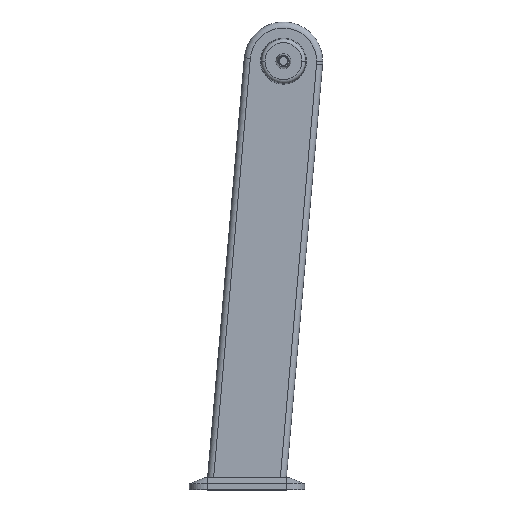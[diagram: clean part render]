
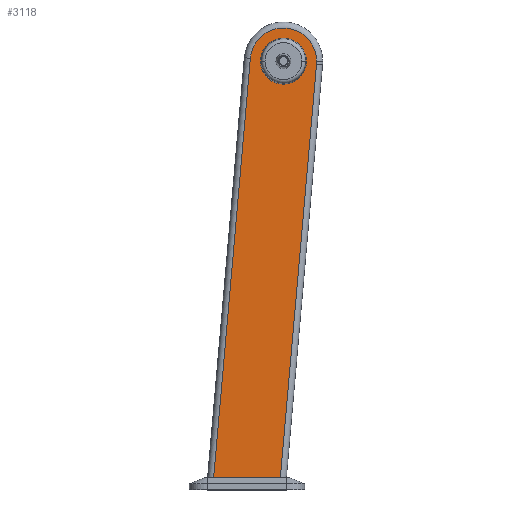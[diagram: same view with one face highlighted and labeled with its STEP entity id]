
A CAD part, top view. The second image highlights one B-rep face of the part: STEP entity #3118.
In plain terms, the highlighted planar face has unit normal (0, 0, 1).
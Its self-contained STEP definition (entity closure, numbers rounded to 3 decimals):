
#18 = DIRECTION ( 'NONE',  ( -0.087, -0.996, 0. ) ) ;
#55 = AXIS2_PLACEMENT_3D ( 'NONE', #3131, #1603, #84 ) ;
#84 = DIRECTION ( 'NONE',  ( 1., 0., 0. ) ) ;
#102 = CARTESIAN_POINT ( 'NONE',  ( 0., 0., 31.25 ) ) ;
#120 = CIRCLE ( 'NONE', #55, 38. ) ;
#128 = ORIENTED_EDGE ( 'NONE', *, *, #154, .F. ) ;
#154 = EDGE_CURVE ( 'NONE', #166, #492, #120, .T. ) ;
#166 = VERTEX_POINT ( 'NONE', #2633 ) ;
#173 = DIRECTION ( 'NONE',  ( 1., 0., 0. ) ) ;
#221 = CARTESIAN_POINT ( 'NONE',  ( 54.791, -4.794, 31.25 ) ) ;
#269 = CARTESIAN_POINT ( 'NONE',  ( -5.157, -690., 31.25 ) ) ;
#316 = CARTESIAN_POINT ( 'NONE',  ( 55., 0., 31.25 ) ) ;
#355 = DIRECTION ( 'NONE',  ( 1., 0., 0. ) ) ;
#413 = VECTOR ( 'NONE', #173, 1000. ) ;
#453 = AXIS2_PLACEMENT_3D ( 'NONE', #2770, #750, #2522 ) ;
#492 = VERTEX_POINT ( 'NONE', #2246 ) ;
#518 = VERTEX_POINT ( 'NONE', #3277 ) ;
#575 = AXIS2_PLACEMENT_3D ( 'NONE', #2905, #1393, #3163 ) ;
#638 = LINE ( 'NONE', #221, #2421 ) ;
#694 = EDGE_CURVE ( 'NONE', #2754, #1002, #638, .T. ) ;
#743 = CIRCLE ( 'NONE', #861, 55. ) ;
#750 = DIRECTION ( 'NONE',  ( 0., 0., 1. ) ) ;
#777 = FACE_OUTER_BOUND ( 'NONE', #1436, .T. ) ;
#801 = EDGE_CURVE ( 'NONE', #1948, #518, #2856, .T. ) ;
#861 = AXIS2_PLACEMENT_3D ( 'NONE', #102, #1877, #355 ) ;
#1002 = VERTEX_POINT ( 'NONE', #1415 ) ;
#1032 = DIRECTION ( 'NONE',  ( 0., 0., 1. ) ) ;
#1188 = EDGE_CURVE ( 'NONE', #1002, #3243, #2854, .T. ) ;
#1348 = ORIENTED_EDGE ( 'NONE', *, *, #694, .T. ) ;
#1393 = DIRECTION ( 'NONE',  ( 0., 0., 1. ) ) ;
#1415 = CARTESIAN_POINT ( 'NONE',  ( 54.791, -4.794, 31.25 ) ) ;
#1436 = EDGE_LOOP ( 'NONE', ( #1348, #1592, #2467, #1664, #1872 ) ) ;
#1499 = PLANE ( 'NONE',  #453 ) ;
#1538 = CARTESIAN_POINT ( 'NONE',  ( -117.403, -710.872, 31.25 ) ) ;
#1592 = ORIENTED_EDGE ( 'NONE', *, *, #1188, .T. ) ;
#1603 = DIRECTION ( 'NONE',  ( 0., 0., 1. ) ) ;
#1659 = VECTOR ( 'NONE', #18, 1000. ) ;
#1664 = ORIENTED_EDGE ( 'NONE', *, *, #801, .T. ) ;
#1685 = EDGE_LOOP ( 'NONE', ( #128, #2022 ) ) ;
#1692 = CARTESIAN_POINT ( 'NONE',  ( 0., -690., 31.25 ) ) ;
#1759 = LINE ( 'NONE', #1692, #413 ) ;
#1837 = AXIS2_PLACEMENT_3D ( 'NONE', #2557, #1032, #2808 ) ;
#1872 = ORIENTED_EDGE ( 'NONE', *, *, #3010, .T. ) ;
#1877 = DIRECTION ( 'NONE',  ( 0., 0., 1. ) ) ;
#1918 = EDGE_CURVE ( 'NONE', #492, #166, #2891, .T. ) ;
#1948 = VERTEX_POINT ( 'NONE', #2919 ) ;
#2001 = DIRECTION ( 'NONE',  ( 0.087, 0.996, 0. ) ) ;
#2022 = ORIENTED_EDGE ( 'NONE', *, *, #1918, .F. ) ;
#2246 = CARTESIAN_POINT ( 'NONE',  ( -38., 0., 31.25 ) ) ;
#2421 = VECTOR ( 'NONE', #2001, 1000. ) ;
#2467 = ORIENTED_EDGE ( 'NONE', *, *, #2906, .T. ) ;
#2522 = DIRECTION ( 'NONE',  ( 1., 0., 0. ) ) ;
#2557 = CARTESIAN_POINT ( 'NONE',  ( 0., 0., 31.25 ) ) ;
#2633 = CARTESIAN_POINT ( 'NONE',  ( 38., 0., 31.25 ) ) ;
#2754 = VERTEX_POINT ( 'NONE', #269 ) ;
#2770 = CARTESIAN_POINT ( 'NONE',  ( 0., 0., 31.25 ) ) ;
#2808 = DIRECTION ( 'NONE',  ( 1., 0., 0. ) ) ;
#2854 = CIRCLE ( 'NONE', #1837, 55. ) ;
#2856 = LINE ( 'NONE', #1538, #1659 ) ;
#2881 = FACE_BOUND ( 'NONE', #1685, .T. ) ;
#2891 = CIRCLE ( 'NONE', #575, 38. ) ;
#2905 = CARTESIAN_POINT ( 'NONE',  ( 0., 0., 31.25 ) ) ;
#2906 = EDGE_CURVE ( 'NONE', #3243, #1948, #743, .T. ) ;
#2919 = CARTESIAN_POINT ( 'NONE',  ( -54.791, 4.794, 31.25 ) ) ;
#3010 = EDGE_CURVE ( 'NONE', #518, #2754, #1759, .T. ) ;
#3118 = ADVANCED_FACE ( 'NONE', ( #777, #2881 ), #1499, .T. ) ;
#3131 = CARTESIAN_POINT ( 'NONE',  ( 0., 0., 31.25 ) ) ;
#3163 = DIRECTION ( 'NONE',  ( 1., 0., 0. ) ) ;
#3243 = VERTEX_POINT ( 'NONE', #316 ) ;
#3277 = CARTESIAN_POINT ( 'NONE',  ( -115.577, -690., 31.25 ) ) ;
